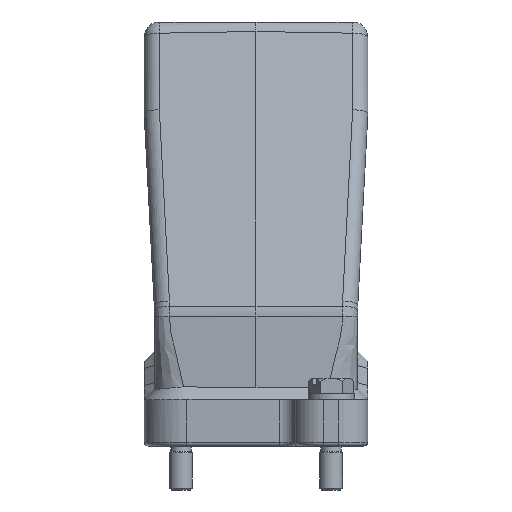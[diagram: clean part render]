
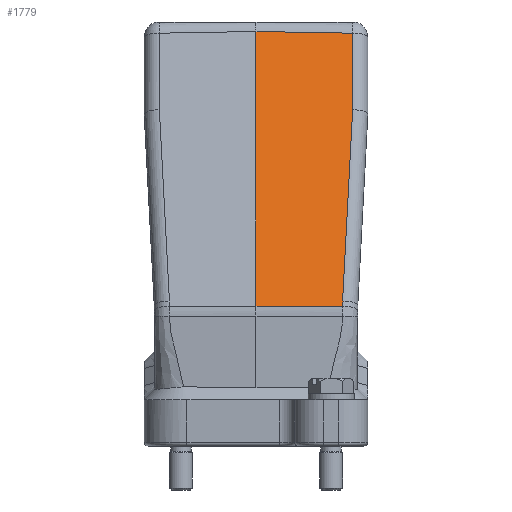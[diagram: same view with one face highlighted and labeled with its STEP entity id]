
A CAD part, left-side view. The second image highlights one B-rep face of the part: STEP entity #1779.
In plain terms, the highlighted planar face has unit normal (-0.966, -0.018, 0.259).
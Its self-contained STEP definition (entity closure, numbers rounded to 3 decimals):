
#1310=FACE_OUTER_BOUND('',#2865,.T.);
#1779=ADVANCED_FACE('',(#1310),#2270,.T.);
#2270=PLANE('',#13019);
#2865=EDGE_LOOP('',(#3988,#3989,#3990,#3991,#3992,#3993));
#3988=ORIENTED_EDGE('',*,*,#7243,.T.);
#3989=ORIENTED_EDGE('',*,*,#6896,.T.);
#3990=ORIENTED_EDGE('',*,*,#7244,.F.);
#3991=ORIENTED_EDGE('',*,*,#7245,.T.);
#3992=ORIENTED_EDGE('',*,*,#7246,.T.);
#3993=ORIENTED_EDGE('',*,*,#7247,.T.);
#6077=VERTEX_POINT('',#18080);
#6081=VERTEX_POINT('',#18092);
#6364=VERTEX_POINT('',#19546);
#6365=VERTEX_POINT('',#19548);
#6366=VERTEX_POINT('',#19550);
#6367=VERTEX_POINT('',#19552);
#6896=EDGE_CURVE('',#6077,#6081,#10110,.T.);
#7243=EDGE_CURVE('',#6364,#6077,#10282,.T.);
#7244=EDGE_CURVE('',#6365,#6081,#10283,.T.);
#7245=EDGE_CURVE('',#6365,#6366,#10284,.T.);
#7246=EDGE_CURVE('',#6366,#6367,#10285,.T.);
#7247=EDGE_CURVE('',#6367,#6364,#10286,.T.);
#10110=LINE('',#18093,#10946);
#10282=LINE('',#19545,#11118);
#10283=LINE('',#19547,#11119);
#10284=LINE('',#19549,#11120);
#10285=LINE('',#19551,#11121);
#10286=LINE('',#19553,#11122);
#10946=VECTOR('',#13980,1.);
#11118=VECTOR('',#14330,1.);
#11119=VECTOR('',#14331,1.);
#11120=VECTOR('',#14332,1.);
#11121=VECTOR('',#14333,1.);
#11122=VECTOR('',#14334,1.);
#13019=AXIS2_PLACEMENT_3D('',#19554,#14335,#14336);
#13980=DIRECTION('',(-0.013,1.,0.017));
#14330=DIRECTION('',(0.259,0.,0.966));
#14331=DIRECTION('',(0.259,0.,0.966));
#14332=DIRECTION('',(0.017,-1.,-0.002));
#14333=DIRECTION('',(0.259,0.,0.966));
#14334=DIRECTION('',(0.259,-0.051,0.964));
#14335=DIRECTION('',(-0.966,-0.017,0.259));
#14336=DIRECTION('',(0.259,0.,0.966));
#18080=CARTESIAN_POINT('',(-41.728,-25.07,89.048));
#18092=CARTESIAN_POINT('',(-42.064,0.,89.486));
#18093=CARTESIAN_POINT('',(-42.051,-1.005,89.468));
#19545=CARTESIAN_POINT('',(-40.948,-25.07,91.962));
#19546=CARTESIAN_POINT('',(-47.046,-25.07,69.201));
#19547=CARTESIAN_POINT('',(-61.5,0.,16.95));
#19548=CARTESIAN_POINT('',(-61.159,0.,18.221));
#19549=CARTESIAN_POINT('',(-61.159,0.003,18.221));
#19550=CARTESIAN_POINT('',(-60.767,-22.47,18.17));
#19551=CARTESIAN_POINT('',(-60.687,-22.47,18.468));
#19552=CARTESIAN_POINT('',(-60.387,-22.47,19.59));
#19553=CARTESIAN_POINT('',(-47.296,-25.021,68.273));
#19554=CARTESIAN_POINT('',(-61.5,0.,16.95));
